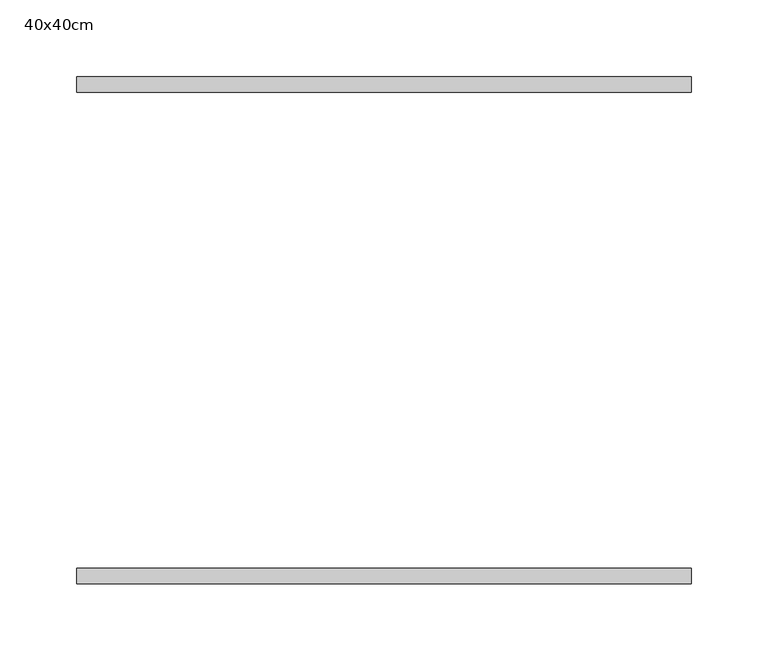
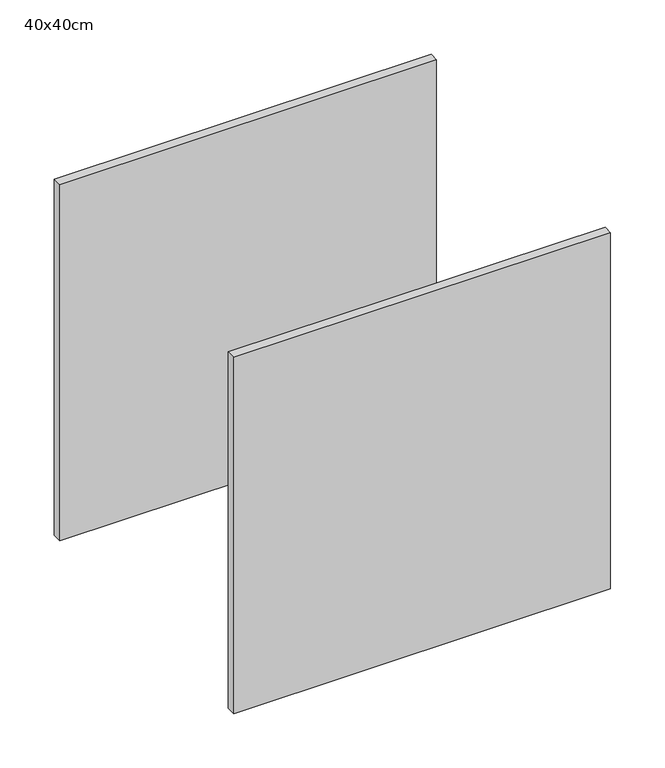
"""IFC4 building model written with IfcOpenShell, lengths in millimetres: proxy geometry, Extractor en Muro : 40x40cm."""

from ifc_helpers import new_model, si_unit, frame, origin, place, context, project, spatial, polyline, outline, extrude, source, transform, mapped, element, save


def proxy_40x40cm_5790892a(model_context):
    return source(origin(), model_context, "Body", "SweptSolid", [
        extrude(outline(polyline([(-75.0, -155.0), (325.0, -155.0), (325.0, -165.0), (-75.0, -165.0), (-75.0, -155.0)])), frame((0.0, 0.0, 1600.0), z_axis=(0.0, 0.0, 1.0), x_axis=(1.0, 0.0, 0.0)), (0.0, 0.0, 1.0), 400.0),
        extrude(outline(polyline([(325.0, 155.0), (-75.0, 155.0), (-75.0, 165.0), (325.0, 165.0), (325.0, 155.0)])), frame((0.0, 0.0, 1600.0), z_axis=(0.0, 0.0, 1.0), x_axis=(1.0, 0.0, 0.0)), (0.0, 0.0, 1.0), 400.0),
    ])


if __name__ == "__main__":
    model = new_model("IFC4")
    model_context = context("Model", 3, world=origin())
    ifc_project = project(units=[si_unit("LENGTHUNIT", "METRE", prefix="MILLI")], contexts=[model_context])
    site = spatial("IfcSite", under=ifc_project)
    building = spatial("IfcBuilding", under=site)
    placement = place(None, origin())
    proxy_40x40cm_shape = proxy_40x40cm_5790892a(model_context)
    element("IfcBuildingElementProxy", 1, Name="Extractor en Muro : 40x40cm", ObjectType="Extractor en Muro : 40x40cm", at=placement, inside=building, context=model_context, shape_type="MappedRepresentation", body=[
        mapped(proxy_40x40cm_shape, transform((0.0, 0.0, 0.0), x_axis=(1.0, 0.0, 0.0), y_axis=(0.0, 1.0, 0.0), z_axis=(0.0, 0.0, 1.0))),
    ])
    save(model, "model.ifc")
